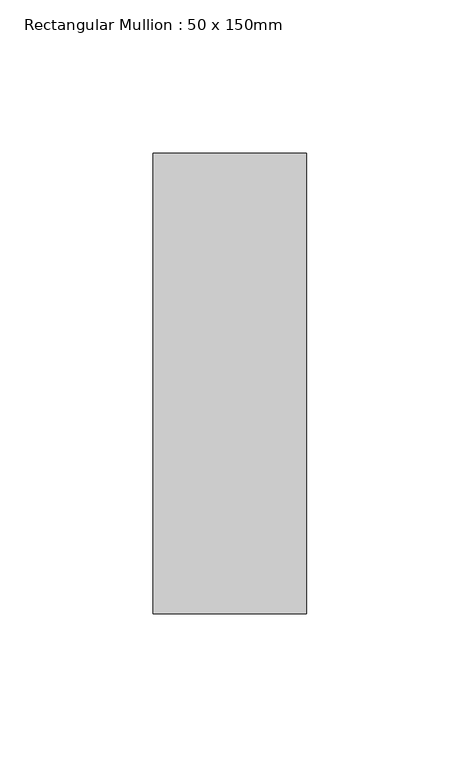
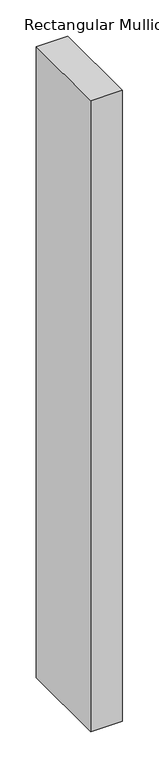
"""IFC4 building model written with IfcOpenShell, lengths in millimetres: member geometry, Rectangular Mullion : 50 x 150mm."""

from ifc_helpers import new_model, si_unit, frame, origin, place, context, project, spatial, polyline, outline, extrude, source, transform, mapped, element, save


def rectangular_mullion_50_x_150mm_81b7b0e2(model_context):
    return source(origin(), model_context, "Body", "SweptSolid", [
        extrude(outline(polyline([(0.0, 75.0), (0.0, -75.0), (-50.0, -75.0), (-50.0, 75.0), (0.0, 75.0)])), frame((0.0, 0.0, -1060.0), z_axis=(0.0, 0.0, 1.0), x_axis=(1.0, 0.0, 0.0)), (0.0, 0.0, 1.0), 1060.0),
    ])


if __name__ == "__main__":
    model = new_model("IFC4")
    model_context = context("Model", 3, world=origin())
    ifc_project = project(units=[si_unit("LENGTHUNIT", "METRE", prefix="MILLI")], contexts=[model_context])
    site = spatial("IfcSite", under=ifc_project)
    building = spatial("IfcBuilding", under=site)
    placement = place(None, origin())
    rectangular_mullion_50_x_150mm_shape = rectangular_mullion_50_x_150mm_81b7b0e2(model_context)
    element("IfcMember", 1, ObjectType="Rectangular Mullion : 50 x 150mm", at=placement, inside=building, context=model_context, shape_type="MappedRepresentation", body=[
        mapped(rectangular_mullion_50_x_150mm_shape, transform((0.0, 0.0, 0.0), x_axis=(1.0, 0.0, 0.0), y_axis=(0.0, 1.0, 0.0), z_axis=(0.0, 0.0, 1.0))),
    ])
    save(model, "model.ifc")
